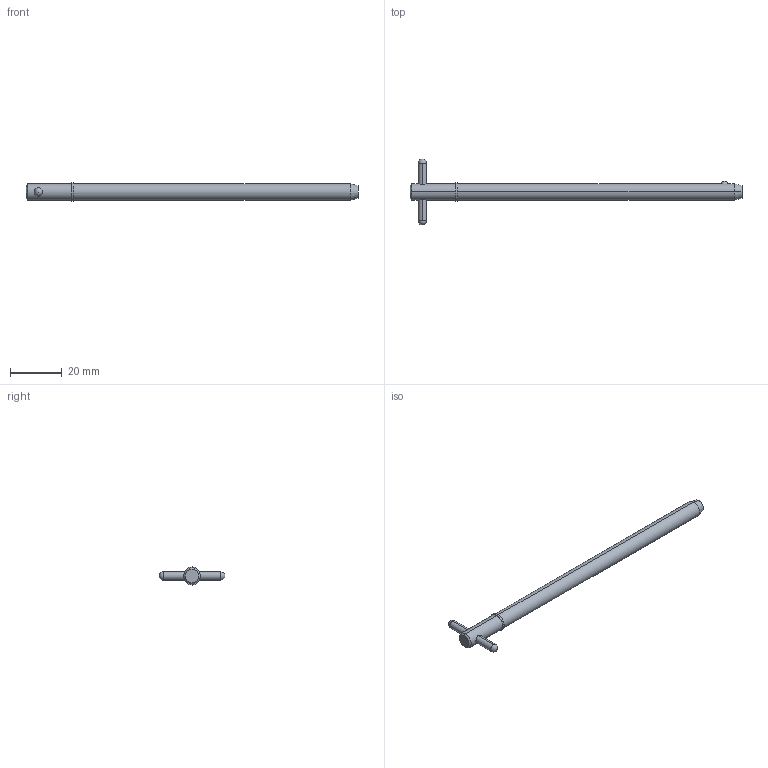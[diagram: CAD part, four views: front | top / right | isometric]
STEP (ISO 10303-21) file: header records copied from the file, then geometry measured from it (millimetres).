
FILE_DESCRIPTION (( 'STEP AP203' ), '1' );
FILE_NAME ('33018.W2540.step', '2024-11-19T17:08:56', ( '' ), ( '' ), 'SwSTEP 2.0', 'SolidWorks 2019', '' );
FILE_SCHEMA (( 'CONFIG_CONTROL_DESIGN' ));
Length unit declared in the file: millimetre
Products named in the file (3): Part1_33018.W2540; Part2_33018.W2540; 33018.W2540
Assembly tree (2 placements, depth 2):
  33018.W2540
    Part1_33018.W2540
    Part2_33018.W2540
Bounding box: 127.81 x 25.4 x 6.99 mm (x, y, z)
Volume: 4172.9 mm3; surface area: 2899.2 mm2
Topology: 2 solids, 2 shells, 22 faces, 47 edges, 30 vertices
Faces by surface type: cylinder 10, sphere 4, cone 4, plane 4
Entity records: 993 total; most frequent: CARTESIAN_POINT 236, DIRECTION 110, ORIENTED_EDGE 82, AXIS2_PLACEMENT_3D 48, EDGE_CURVE 41, EDGE_LOOP 27, PERSON_AND_ORGANIZATION 26, VERTEX_POINT 26
